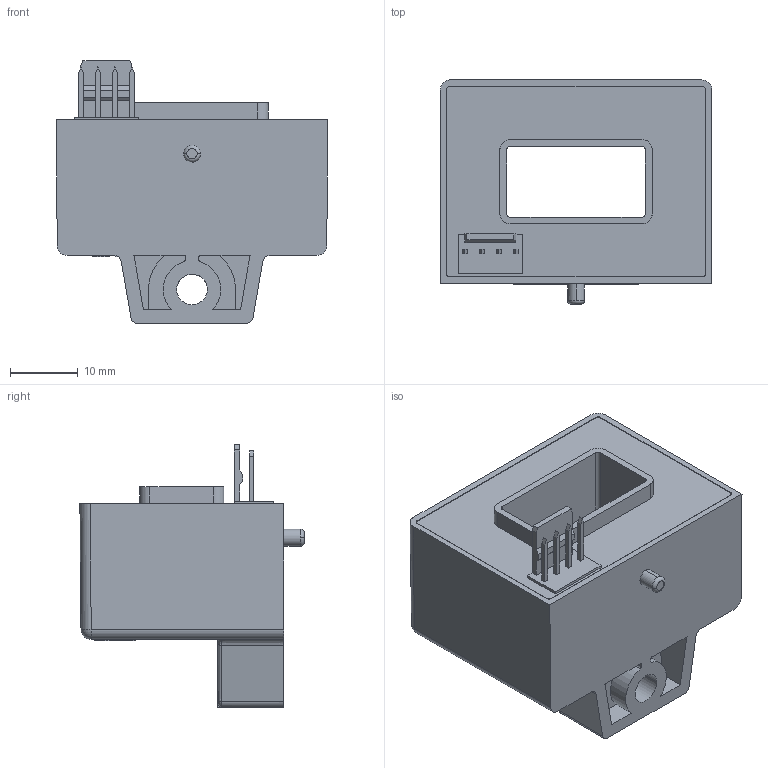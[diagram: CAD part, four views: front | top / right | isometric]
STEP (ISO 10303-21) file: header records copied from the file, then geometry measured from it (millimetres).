
FILE_DESCRIPTION(('Creo Elements/Direct Modeling STEP Export'),'2;1');
FILE_NAME('64.74.50.000.0_20200907.stp','2020-09-07T14:37:03',(''),(''),'Creo Elements/Direct Modeling STEP processor for AP214 (Solid Model)','Creo Elements/Direct Modeling 20.1 10-Mar-2018 (C) Parametric Technology GmbH','');
FILE_SCHEMA(('AUTOMOTIVE_DESIGN { 1 0 10303 214 1 1 1 1 }'));
Length unit declared in the file: millimetre
Products named in the file (2): 64.74.50.000.0_20200907
Assembly tree (1 placements, depth 2):
  64.74.50.000.0_20200907
    64.74.50.000.0_20200907
Bounding box: 40 x 33 x 38.7 mm (x, y, z)
Volume: 20568.2 mm3; surface area: 7556.6 mm2
Topology: 1 solids, 1 shells, 306 faces, 789 edges, 518 vertices
Faces by surface type: plane 227, cylinder 49, bspline 14, extrusion 9, sphere 3, cone 2, torus 2
Entity records: 11656 total; most frequent: CARTESIAN_POINT 4046, ORIENTED_EDGE 1574, DIRECTION 1338, EDGE_CURVE 787, VECTOR 630, LINE 621, VERTEX_POINT 518, AXIS2_PLACEMENT_3D 354
